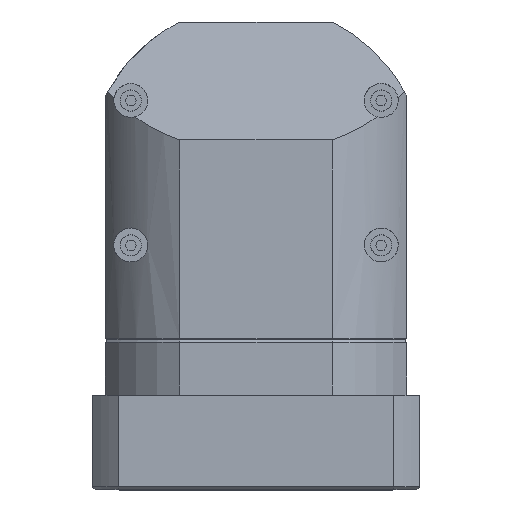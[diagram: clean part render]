
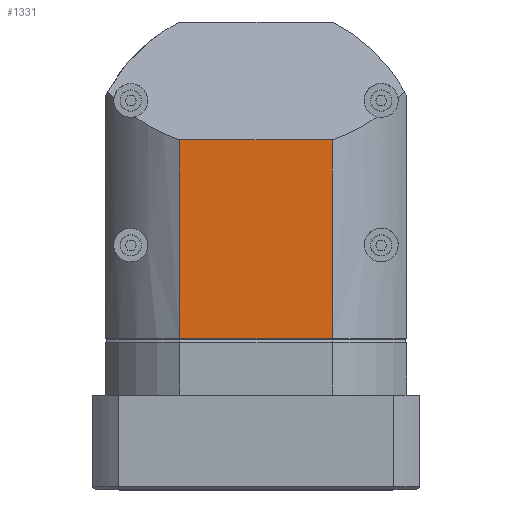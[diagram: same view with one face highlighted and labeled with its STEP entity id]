
A CAD part, top view. The second image highlights one B-rep face of the part: STEP entity #1331.
In plain terms, the highlighted planar face has unit normal (0, 0, 1).
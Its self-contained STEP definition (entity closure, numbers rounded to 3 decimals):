
#486 = CARTESIAN_POINT ( 'NONE',  ( -79.946, -84.527, 225.466 ) ) ;
#641 = VECTOR ( 'NONE', #6681, 1000. ) ;
#664 = ORIENTED_EDGE ( 'NONE', *, *, #10359, .T. ) ;
#1331 = ADVANCED_FACE ( 'NONE', ( #5579 ), #6719, .F. ) ;
#1796 = EDGE_CURVE ( 'NONE', #6101, #6066, #4306, .T. ) ;
#1842 = VECTOR ( 'NONE', #3720, 1000. ) ;
#2502 = VERTEX_POINT ( 'NONE', #7494 ) ;
#3078 = VERTEX_POINT ( 'NONE', #8290 ) ;
#3205 = CARTESIAN_POINT ( 'NONE',  ( -79.946, -5.027, 225.466 ) ) ;
#3397 = EDGE_LOOP ( 'NONE', ( #4157, #10332, #5618, #664 ) ) ;
#3720 = DIRECTION ( 'NONE',  ( 0., 1., 0. ) ) ;
#3814 = DIRECTION ( 'NONE',  ( 1., 0., 0. ) ) ;
#4157 = ORIENTED_EDGE ( 'NONE', *, *, #1796, .F. ) ;
#4306 = LINE ( 'NONE', #486, #11086 ) ;
#4650 = LINE ( 'NONE', #8269, #641 ) ;
#5482 = AXIS2_PLACEMENT_3D ( 'NONE', #11508, #9686, #3814 ) ;
#5579 = FACE_OUTER_BOUND ( 'NONE', #3397, .T. ) ;
#5618 = ORIENTED_EDGE ( 'NONE', *, *, #7664, .T. ) ;
#6066 = VERTEX_POINT ( 'NONE', #3205 ) ;
#6101 = VERTEX_POINT ( 'NONE', #7793 ) ;
#6681 = DIRECTION ( 'NONE',  ( 1., 0., 0. ) ) ;
#6719 = PLANE ( 'NONE',  #5482 ) ;
#7238 = DIRECTION ( 'NONE',  ( -1., 0., 0. ) ) ;
#7494 = CARTESIAN_POINT ( 'NONE',  ( -19.198, -5.027, 225.466 ) ) ;
#7664 = EDGE_CURVE ( 'NONE', #3078, #2502, #12444, .T. ) ;
#7793 = CARTESIAN_POINT ( 'NONE',  ( -79.946, -84.027, 225.466 ) ) ;
#8269 = CARTESIAN_POINT ( 'NONE',  ( -19.198, -84.027, 225.466 ) ) ;
#8290 = CARTESIAN_POINT ( 'NONE',  ( -19.198, -84.027, 225.466 ) ) ;
#9039 = CARTESIAN_POINT ( 'NONE',  ( 40.428, -5.027, 225.466 ) ) ;
#9168 = LINE ( 'NONE', #9039, #11871 ) ;
#9204 = EDGE_CURVE ( 'NONE', #6101, #3078, #4650, .T. ) ;
#9686 = DIRECTION ( 'NONE',  ( 0., 0., -1. ) ) ;
#10332 = ORIENTED_EDGE ( 'NONE', *, *, #9204, .T. ) ;
#10359 = EDGE_CURVE ( 'NONE', #2502, #6066, #9168, .T. ) ;
#10592 = CARTESIAN_POINT ( 'NONE',  ( -19.198, -84.527, 225.466 ) ) ;
#11086 = VECTOR ( 'NONE', #12270, 1000. ) ;
#11508 = CARTESIAN_POINT ( 'NONE',  ( -79.946, -84.527, 225.466 ) ) ;
#11871 = VECTOR ( 'NONE', #7238, 1000. ) ;
#12270 = DIRECTION ( 'NONE',  ( 0., 1., 0. ) ) ;
#12444 = LINE ( 'NONE', #10592, #1842 ) ;
